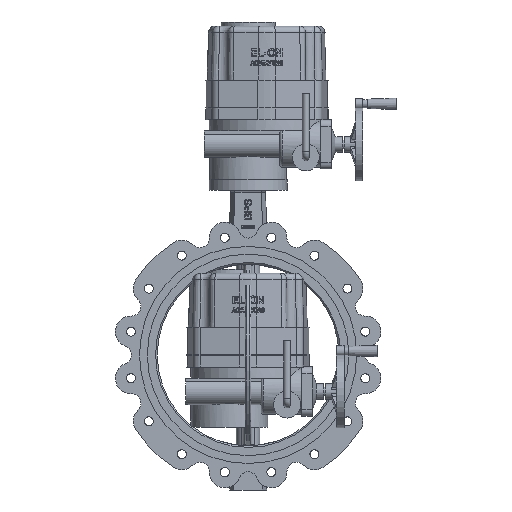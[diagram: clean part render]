
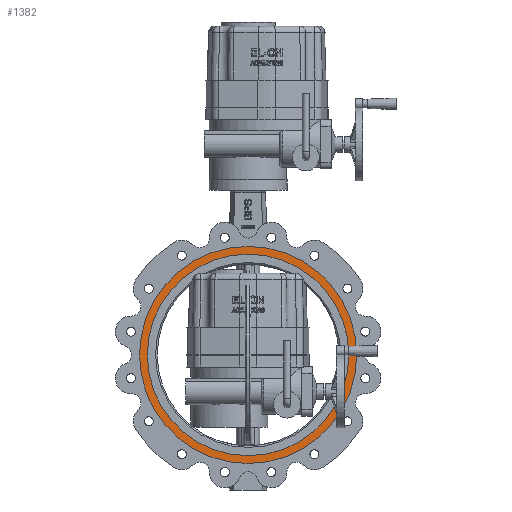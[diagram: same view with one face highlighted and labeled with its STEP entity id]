
A CAD part, front view. The second image highlights one B-rep face of the part: STEP entity #1382.
In plain terms, the highlighted planar face has unit normal (0, -1, 0).
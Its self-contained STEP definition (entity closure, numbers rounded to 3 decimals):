
#1382 = ADVANCED_FACE( '', ( #3011, #3012 ), #3013, .F. );
#3011 = FACE_OUTER_BOUND( '', #8045, .T. );
#3012 = FACE_BOUND( '', #8046, .T. );
#3013 = PLANE( '', #8047 );
#8045 = EDGE_LOOP( '', ( #13475 ) );
#8046 = EDGE_LOOP( '', ( #13476 ) );
#8047 = AXIS2_PLACEMENT_3D( '', #13477, #13478, #13479 );
#13475 = ORIENTED_EDGE( '', *, *, #16040, .F. );
#13476 = ORIENTED_EDGE( '', *, *, #15254, .T. );
#13477 = CARTESIAN_POINT( '', ( 0., -39., 0. ) );
#13478 = DIRECTION( '', ( 0., 1., 0. ) );
#13479 = DIRECTION( '', ( 0., 0., 1. ) );
#15254 = EDGE_CURVE( '', #17586, #17586, #17587, .T. );
#16040 = EDGE_CURVE( '', #18626, #18626, #18627, .T. );
#17586 = VERTEX_POINT( '', #23657 );
#17587 = CIRCLE( '', #23658, 194. );
#18626 = VERTEX_POINT( '', #28008 );
#18627 = CIRCLE( '', #28009, 209. );
#23657 = CARTESIAN_POINT( '', ( 0., -39., 194. ) );
#23658 = AXIS2_PLACEMENT_3D( '', #29523, #29524, #29525 );
#28008 = CARTESIAN_POINT( '', ( 209., -39., 0. ) );
#28009 = AXIS2_PLACEMENT_3D( '', #30213, #30214, #30215 );
#29523 = CARTESIAN_POINT( '', ( 0., -39., 0. ) );
#29524 = DIRECTION( '', ( 0., 1., 0. ) );
#29525 = DIRECTION( '', ( 0., 0., 1. ) );
#30213 = CARTESIAN_POINT( '', ( 0., -39., 0. ) );
#30214 = DIRECTION( '', ( 0., 1., 0. ) );
#30215 = DIRECTION( '', ( 1., 0., 0. ) );
